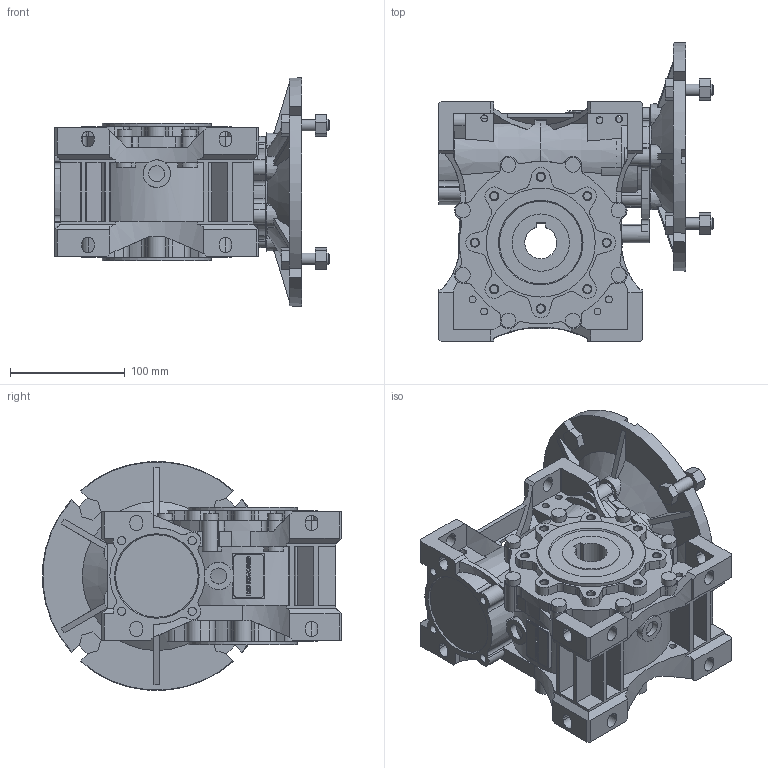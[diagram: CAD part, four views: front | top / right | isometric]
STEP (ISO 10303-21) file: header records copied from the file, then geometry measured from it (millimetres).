
FILE_DESCRIPTION(/* description */ ('STEP AP214'),/* implementation_level */ '2;1');
FILE_NAME(/* name */ 'NMRVP 075 200x19 28 NO NO - - NO - - - NO NO - ---(---------------)',/* time_stamp */ '2024-09-30T09:40:17+02:00',/* author */ ('License CC BY-ND 4.0'),/* organization */ ('CADENAS'),/* preprocessor_version */ 'ST-DEVELOPER v19.3',/* originating_system */ 'PARTsolutions',/* authorisation */ ' ');
FILE_SCHEMA (('AUTOMOTIVE_DESIGN {1 0 10303 214 3 1 1}'));
Length unit declared in the file: millimetre
Products named in the file (6): NMRVP 075 200x19 28 NO NO - - NO - - - NO NO - ---(---------------); W.075.01.M; 075-28 (120); W.075.14.19.M-p; 7580 B5; 75-50
Assembly tree (5 placements, depth 2):
  NMRVP 075 200x19 28 NO NO - - NO - - - NO NO - ---(---------------)
    W.075.01.M
    075-28 (120)
    W.075.14.19.M-p
    7580 B5
    75-50
Bounding box: 239.5 x 260.67 x 199.68 mm (x, y, z)
Volume: 2886522.7 mm3; surface area: 454993.9 mm2
Topology: 5 solids, 11 shells, 1651 faces, 4455 edges, 2949 vertices
Faces by surface type: plane 1015, cylinder 566, cone 68, torus 2
Full cylindrical faces by diameter (mm): 6 x14, 6.647 x16, 7.26 x12, 10 x9, 13 x8, 14 x3, 24 x1, 29 x1, 31 x1, 40 x1, 42 x1, 48 x1, 50 x3, 68 x3, 95 x2, 130 x1
Entity records: 63389 total; most frequent: CARTESIAN_POINT 9854, DIRECTION 8823, ORIENTED_EDGE 8680, EDGE_CURVE 4340, AXIS2_PLACEMENT_3D 3062, VERTEX_POINT 2939, LINE 2699, VECTOR 2699
